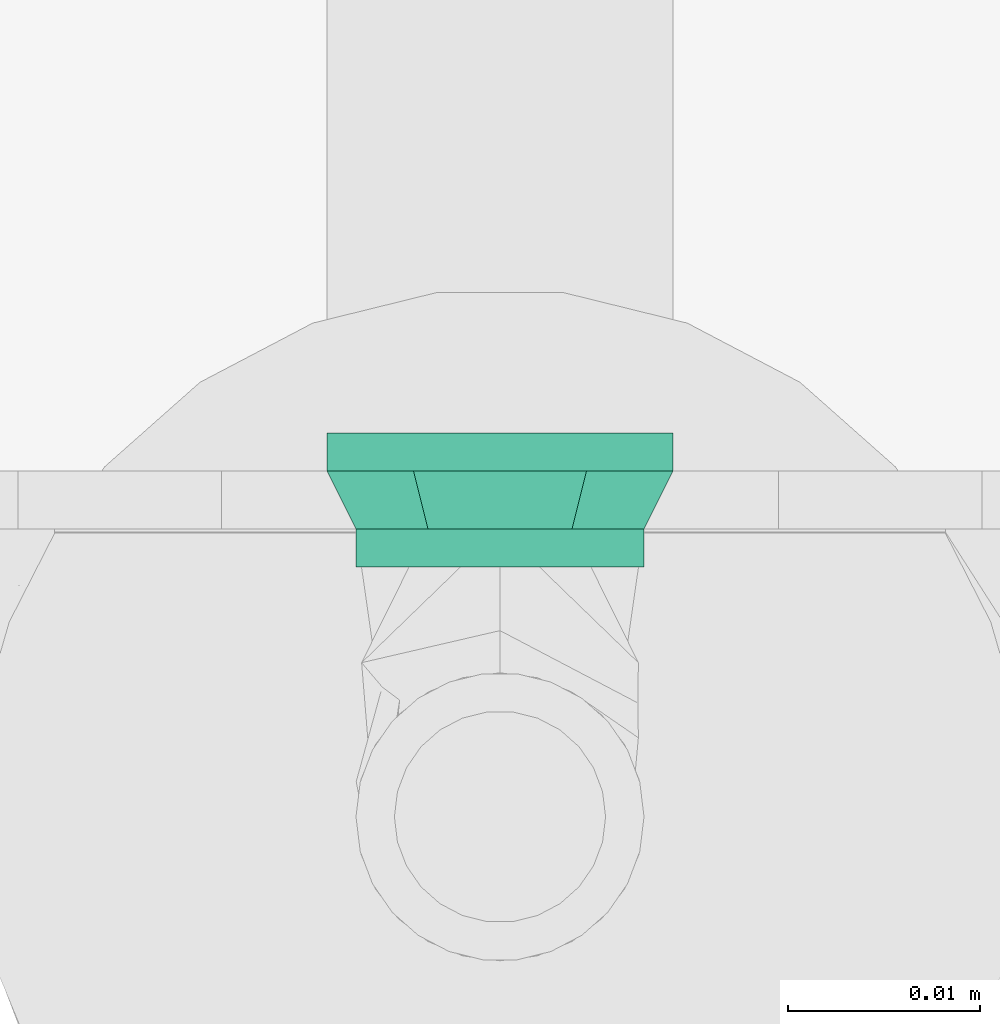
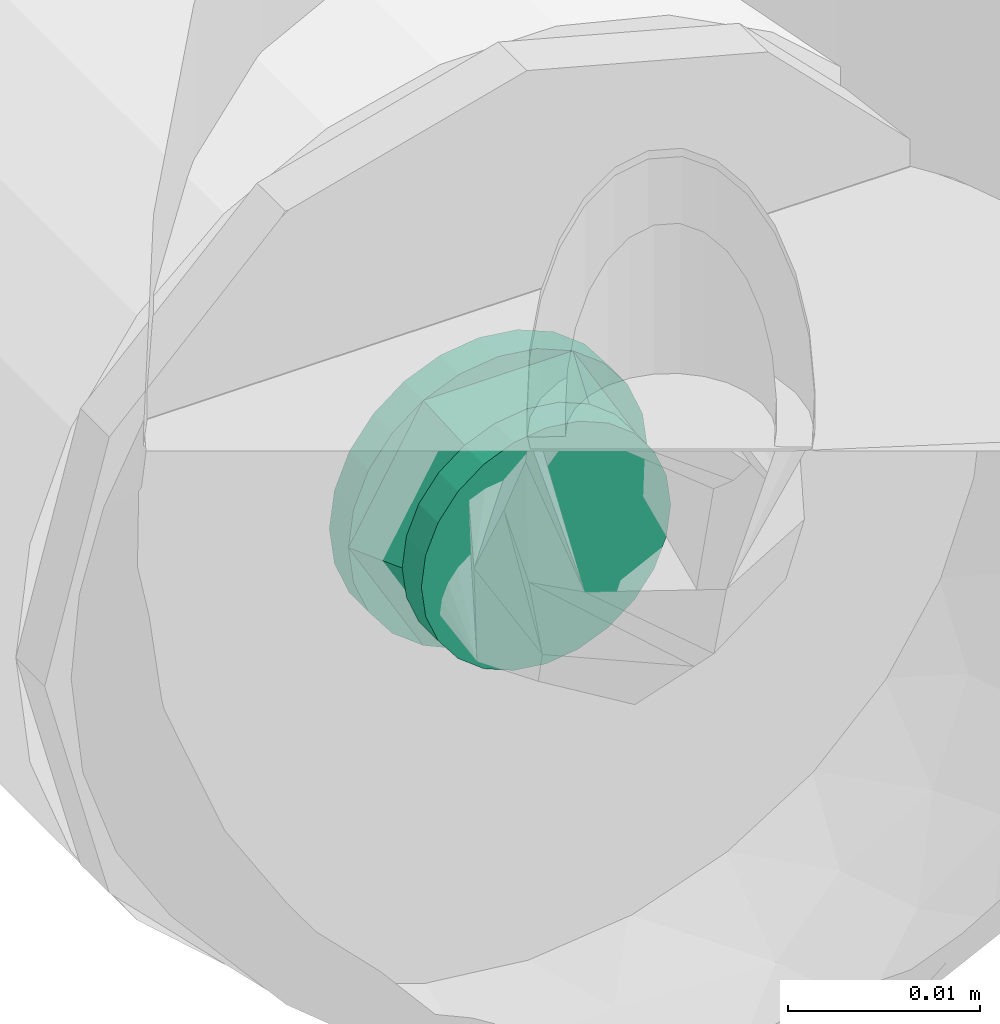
# One storey, part 78 of 78: 1 flow fitting.
"""IFC2X3 building model written with IfcOpenShell, lengths in millimetres."""

import ifcopenshell
import ifcopenshell.guid

model = None  # the IFC model being written
_history = None  # IfcOwnerHistory: only IFC2X3 demands one
_inside = {}  # id of a spatial element -> (the spatial element, [elements in it])
_under = {}  # id of a project, library or spatial element -> (it, [spatial elements below it])
_declared = {}  # id of a project -> (the project, [libraries it declares])
_typed = {}  # id of a type object -> (the type object, [elements of that type])
_made_of = {}  # id of a material, layer set ... -> (it, [elements and type objects made of it])


def new_model(schema):
    """Start an empty IFC model of exactly this schema.

    Asked for "IFC4X3", IfcOpenShell would pick the latest addendum, in which some entities
    have other attributes; the version numbers below select the first issue.
    IFC2X3 requires an IfcOwnerHistory on every rooted entity: one is made here for all.
    """
    global model, _history
    if schema == "IFC4X3":
        model = ifcopenshell.file(schema_version=(4, 3, 0, 0))
    else:
        model = ifcopenshell.file(schema=schema)
    _inside.clear()
    _under.clear()
    _declared.clear()
    _typed.clear()
    _made_of.clear()
    _history = None
    if model.schema == "IFC2X3":
        org = make("IfcOrganization", Name="unknown")
        user = make(
            "IfcPersonAndOrganization",
            ThePerson=make("IfcPerson", FamilyName="unknown"),
            TheOrganization=org,
        )
        app = make(
            "IfcApplication",
            ApplicationDeveloper=org,
            Version="unknown",
            ApplicationFullName="unknown",
            ApplicationIdentifier="unknown",
        )
        _history = make(
            "IfcOwnerHistory",
            OwningUser=user,
            OwningApplication=app,
            ChangeAction="ADDED",
            CreationDate=0,
        )
    return model


def make(cls, **values):
    """One entity of the class cls with the attributes given. An attribute that is None is left unset."""
    return model.create_entity(
        cls, **{name: value for name, value in values.items() if value is not None}
    )


def entity(cls, *values):
    """Any entity or typed value of the class cls, its attributes in the order of the schema. None: left unset."""
    e = model.create_entity(cls)
    for i, value in enumerate(values):
        if value is not None:
            e[i] = value
    return e


def rooted(cls, **values):
    """An entity with a GlobalId (a new one), such as an element, a storey or a relation."""
    return make(cls, GlobalId=ifcopenshell.guid.new(), OwnerHistory=_history, **values)


def si_unit(unit_type, name, prefix=None):
    """IfcSIUnit, for example si_unit("LENGTHUNIT", "METRE", prefix="MILLI")."""
    return make("IfcSIUnit", UnitType=unit_type, Prefix=prefix, Name=name)


def converted_unit(unit_type, name, factor, base, dimensions=None, offset=None):
    """IfcConversionBasedUnit, such as the inch: factor (a typed value) times the base unit."""
    return make(
        "IfcConversionBasedUnit"
        if offset is None
        else "IfcConversionBasedUnitWithOffset",
        ConversionOffset=offset,
        Dimensions=None
        if dimensions is None
        else entity("IfcDimensionalExponents", *dimensions),
        UnitType=unit_type,
        Name=name,
        ConversionFactor=make(
            "IfcMeasureWithUnit", ValueComponent=factor, UnitComponent=base
        ),
    )


def derived_unit(unit_type, elements):
    """IfcDerivedUnit: a product of units, each with its exponent."""
    return make(
        "IfcDerivedUnit",
        Elements=[
            make("IfcDerivedUnitElement", Unit=unit, Exponent=power)
            for unit, power in elements
        ],
        UnitType=unit_type,
    )


def assignment(units):
    """IfcUnitAssignment: the units of a project."""
    return None if units is None else make("IfcUnitAssignment", Units=units)


def point(xyz):
    """IfcCartesianPoint."""
    return None if xyz is None else make("IfcCartesianPoint", Coordinates=xyz)


def direction(xyz):
    """IfcDirection."""
    return None if xyz is None else make("IfcDirection", DirectionRatios=xyz)


def frame(location, z_axis=None, x_axis=None):
    """IfcAxis2Placement3D, a coordinate frame: its origin and axes. An axis left out is left unset."""
    return make(
        "IfcAxis2Placement3D",
        Location=point(location),
        Axis=direction(z_axis),
        RefDirection=direction(x_axis),
    )


def origin_with_axes():
    """The frame at (0, 0, 0) with the z axis (0, 0, 1) and the x axis (1, 0, 0) written out."""
    return frame((0.0, 0.0, 0.0), z_axis=(0.0, 0.0, 1.0), x_axis=(1.0, 0.0, 0.0))


def place(relative_to, where):
    """IfcLocalPlacement: puts the frame where relative to a parent placement (None: the world)."""
    return make(
        "IfcLocalPlacement", PlacementRelTo=relative_to, RelativePlacement=where
    )


def context(
    kind, dimensions, precision=None, world=None, true_north=None, identifier=None
):
    """IfcGeometricRepresentationContext, for example the 3D "Model" context."""
    return make(
        "IfcGeometricRepresentationContext",
        ContextIdentifier=identifier,
        ContextType=kind,
        CoordinateSpaceDimension=dimensions,
        Precision=precision,
        WorldCoordinateSystem=world,
        TrueNorth=true_north,
    )


def subcontext(parent, identifier, kind, view, scale=None):
    """IfcGeometricRepresentationSubContext, for example "Body" below "Model"."""
    return make(
        "IfcGeometricRepresentationSubContext",
        ContextIdentifier=identifier,
        ContextType=kind,
        ParentContext=parent,
        TargetScale=scale,
        TargetView=view,
    )


def project(units=None, contexts=None):
    """IfcProject with its units and contexts."""
    return rooted(
        "IfcProject",
        Name="project",
        RepresentationContexts=contexts,
        UnitsInContext=assignment(units),
    )


def spatial(cls, under=None, at=None, **own):
    """A site, building, storey or space (cls), placed at a placement, below another one or the project."""
    s = rooted(cls, ObjectPlacement=at, **own)
    if under is not None:
        _under.setdefault(under.id(), (under, []))[1].append(s)
    return s


def faces_of(points, faces, orient=None, outer=None):
    """IfcFace entities. A face is a list of loops; a loop is a list of indices into points, from 0.

    orient and outer hold one flag for each loop. By default every Orientation is true, the
    first loop of a face is its IfcFaceOuterBound and the others are IfcFaceBound.
    """
    made = []
    for i, loops in enumerate(faces):
        bounds = []
        for j, loop in enumerate(loops):
            is_outer = j == 0 if outer is None else outer[i][j]
            bounds.append(
                make(
                    "IfcFaceOuterBound" if is_outer else "IfcFaceBound",
                    Bound=make("IfcPolyLoop", Polygon=[points[k] for k in loop]),
                    Orientation=True if orient is None else orient[i][j],
                )
            )
        made.append(make("IfcFace", Bounds=bounds))
    return made


def open_shell(faces, orient=None, outer=None):
    """The faces of one IfcOpenShell. surface_model builds it on its shared points."""
    return ("IfcOpenShell", faces, orient, outer)


def surface_model(cls, points, shells):
    """IfcFaceBasedSurfaceModel or IfcShellBasedSurfaceModel (cls): surfaces that need not close."""
    shared = [point(p) for p in points]
    made = [make(c, CfsFaces=faces_of(shared, fs, o, b)) for c, fs, o, b in shells]
    if cls == "IfcFaceBasedSurfaceModel":
        return make(cls, FbsmFaces=made)
    return make(cls, SbsmBoundary=made)


def shape(context_of_items, identifier, shape_type, items):
    """IfcShapeRepresentation: the items that make up one representation, for example the "Body"."""
    return make(
        "IfcShapeRepresentation",
        ContextOfItems=context_of_items,
        RepresentationIdentifier=identifier,
        RepresentationType=shape_type,
        Items=items,
    )


def source(mapping_origin, context_of_items, identifier, shape_type, items):
    """IfcRepresentationMap: a shape defined once, which mapped items show again and again."""
    return make(
        "IfcRepresentationMap",
        MappingOrigin=mapping_origin,
        MappedRepresentation=shape(context_of_items, identifier, shape_type, items),
    )


def transform(
    local_origin,
    x_axis=None,
    y_axis=None,
    z_axis=None,
    scale=None,
    scale2=None,
    scale3=None,
    uniform=True,
):
    """IfcCartesianTransformationOperator3D, or its non-uniform kind. x_axis, y_axis, z_axis: its Axis1, 2, 3."""
    if uniform:
        return make(
            "IfcCartesianTransformationOperator3D",
            Axis1=direction(x_axis),
            Axis2=direction(y_axis),
            LocalOrigin=point(local_origin),
            Scale=scale,
            Axis3=direction(z_axis),
        )
    return make(
        "IfcCartesianTransformationOperator3DnonUniform",
        Axis1=direction(x_axis),
        Axis2=direction(y_axis),
        LocalOrigin=point(local_origin),
        Scale=scale,
        Axis3=direction(z_axis),
        Scale2=scale2,
        Scale3=scale3,
    )


def mapped(mapping_source, mapping_target):
    """IfcMappedItem: shows the shape of a source again, moved by a transform."""
    return make(
        "IfcMappedItem", MappingSource=mapping_source, MappingTarget=mapping_target
    )


def made_of(thing, what):
    """Note that an element or type object is made of a material, layer set ...; save() writes the relation."""
    if what is not None:
        _made_of.setdefault(what.id(), (what, []))[1].append(thing)
    return thing


def type_object(cls, material=None, **own):
    """A type object (cls), such as IfcWallType, which elements share."""
    return made_of(rooted(cls, **own), material)


def element(
    cls,
    number,
    at=None,
    inside=None,
    cuts=None,
    type_object=None,
    material=None,
    context=None,
    identifier="Body",
    shape_type=None,
    held_by="IfcProductDefinitionShape",
    body=None,
    shapes=None,
    **own,
):
    """One element of the class cls, such as IfcWall. Its Tag is "e" and its number.

    at: its placement. inside: the storey or other place that contains it. cuts: it is an
    opening in that element (IfcRelVoidsElement). A single representation is given by context,
    identifier, shape_type and body (its items); several are given by shapes. held_by: the class
    of the entity that holds the representations. save() writes the other relations.
    """
    e = rooted(cls, Tag="e%d" % number, ObjectPlacement=at, **own)
    if body is not None:
        shapes = [shape(context, identifier, shape_type, body)]
    if shapes is not None:
        e.Representation = make(held_by, Representations=shapes)
    if inside is not None:
        _inside.setdefault(inside.id(), (inside, []))[1].append(e)
    if cuts is not None:
        rooted(
            "IfcRelVoidsElement", RelatingBuildingElement=cuts, RelatedOpeningElement=e
        )
    if type_object is not None:
        _typed.setdefault(type_object.id(), (type_object, []))[1].append(e)
    return made_of(e, material)


def aggregate(whole, parts):
    """IfcRelAggregates: a whole, such as a stair, and the parts it consists of."""
    return rooted("IfcRelAggregates", RelatingObject=whole, RelatedObjects=parts)


def save(model, path):
    """Write the relations noted so far, then the file.

    IfcRelAggregates (storeys below a building ...), IfcRelContainedInSpatialStructure (elements
    in a storey), IfcRelDefinesByType, IfcRelAssociatesMaterial and IfcRelDeclares: one each for
    every whole, place, type object, material and project.
    """
    for whole, parts in _under.values():
        aggregate(whole, parts)
    for where, things in _inside.values():
        rooted(
            "IfcRelContainedInSpatialStructure",
            RelatedElements=things,
            RelatingStructure=where,
        )
    for kind, things in _typed.values():
        rooted("IfcRelDefinesByType", RelatedObjects=things, RelatingType=kind)
    for what, things in _made_of.values():
        rooted("IfcRelAssociatesMaterial", RelatedObjects=things, RelatingMaterial=what)
    for by, libraries in _declared.values():
        rooted("IfcRelDeclares", RelatingContext=by, RelatedDefinitions=libraries)
    model.write(path)


model = new_model("IFC2X3")

# Units and contexts
model_context = context("Model", 3, precision=0.01, world=frame((0.0, 4.29681676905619e-09, 0.0)), true_north=direction((4.01073788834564e-13, 1.0)))
plan_context = context("Plan", 3, precision=0.01, world=frame((0.0, 4.29681676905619e-09, 0.0)), true_north=direction((4.01073788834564e-13, 1.0)))
body_context = subcontext(model_context, "Body", "Model", "MODEL_VIEW")
ifc_project = project(units=[converted_unit("PLANEANGLEUNIT", "DEGREE", entity("IfcPositiveLengthMeasure", 0.0174532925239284), si_unit("PLANEANGLEUNIT", "RADIAN"), dimensions=[0, 0, 0, 0, 0, 0, 0]), si_unit("AREAUNIT", "SQUARE_METRE"), si_unit("LENGTHUNIT", "METRE", prefix="MILLI"), si_unit("MASSUNIT", "GRAM", prefix="KILO"), si_unit("POWERUNIT", "WATT"), si_unit("PRESSUREUNIT", "PASCAL"), si_unit("FORCEUNIT", "NEWTON", prefix="KILO"), si_unit("ELECTRICVOLTAGEUNIT", "VOLT"), si_unit("ELECTRICCURRENTUNIT", "AMPERE"), si_unit("THERMODYNAMICTEMPERATUREUNIT", "DEGREE_CELSIUS"), si_unit("TIMEUNIT", "SECOND"), si_unit("VOLUMEUNIT", "CUBIC_METRE"), derived_unit("LINEARVELOCITYUNIT", [(si_unit("LENGTHUNIT", "METRE"), 1), (si_unit("TIMEUNIT", "SECOND"), -1)]), derived_unit("VOLUMETRICFLOWRATEUNIT", [(si_unit("VOLUMEUNIT", "CUBIC_METRE"), 1), (si_unit("TIMEUNIT", "SECOND"), -1)]), derived_unit("THERMALTRANSMITTANCEUNIT", [(si_unit("POWERUNIT", "WATT"), 1), (si_unit("THERMODYNAMICTEMPERATUREUNIT", "KELVIN"), -1), (si_unit("AREAUNIT", "SQUARE_METRE"), -1)]), derived_unit("SOUNDPRESSUREUNIT", [(si_unit("PRESSUREUNIT", "PASCAL"), 1)])], contexts=[model_context, plan_context])

# Site, building, storey
site_placement = place(None, frame((0.0, -4.29681676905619e-09, 0.0), z_axis=(0.0, 0.0, 1.0), x_axis=(1.0, 0.0, 0.0)))
site = spatial("IfcSite", under=ifc_project, at=site_placement, Name="ENGM", CompositionType="ELEMENT")
building_placement = place(site_placement, frame((0.0, 4.29681676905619e-09, 0.0), z_axis=(0.0, 0.0, 1.0), x_axis=(1.0, 0.0, 0.0)))
building = spatial("IfcBuilding", under=site, at=building_placement, Name="TH", CompositionType="ELEMENT")
storey_placement = place(building_placement, frame((0.0, 0.0, 205200.0), z_axis=(0.0, 0.0, 1.0), x_axis=(1.0, 0.0, 0.0)))
storey = spatial("IfcBuildingStorey", under=building, at=storey_placement, Name="Nivå D + 1,2 m", CompositionType="ELEMENT", Elevation=205200.0)

# Flow fitting
pipe_fitting_type = type_object("IfcPipeFittingType", Name="magi_pipe_cu_reducer_centric_short_001", PredefinedType="TRANSITION")
shared_shape = source(origin_with_axes(), body_context, "Body", "SurfaceModel", [
    surface_model("IfcShellBasedSurfaceModel", [(-2.0, 0.0, 7.5), (-2.0, 6.49519, 3.75), (-2.0, -1.94114, 7.24444), (-2.0, -3.75, 6.49519), (-2.0, -5.3033, 5.3033), (-2.0, -7.24444, 1.94114), (-2.0, -6.49519, 3.75), (-2.0, 3.75, 6.49519), (-2.0, 5.3033, 5.3033), (-2.0, 1.94114, 7.24444), (-2.0, 7.24444, 1.94114), (-2.0, 7.5, 0.0), (-2.0, 7.24444, -1.94114), (-2.0, -7.5, 0.0), (-2.0, 5.3033, -5.3033), (-2.0, -7.24444, -1.94114), (-2.0, -6.49519, -3.75), (-2.0, -1.94114, -7.24444), (-2.0, -3.75, -6.49519), (-2.0, -5.3033, -5.3033), (-2.0, 6.49519, -3.75), (-2.0, 1.94114, -7.24444), (-2.0, 0.0, -7.5), (-2.0, 3.75, -6.49519), (0.0, -3.75, -6.49519), (0.0, -1.94114, -7.24444), (0.0, -7.5, 0.0), (0.0, -5.3033, -5.3033), (0.0, -7.24444, -1.94114), (0.0, -6.49519, -3.75), (0.0, 5.3033, -5.3033), (0.0, 7.24444, 1.94114), (0.0, 1.94114, -7.24444), (0.0, 3.75, -6.49519), (0.0, 0.0, -7.5), (0.0, 6.49519, -3.75), (0.0, 7.24444, -1.94114), (0.0, -7.24444, 1.94114), (0.0, -5.3033, 5.3033), (0.0, -6.49519, 3.75), (0.0, 6.49519, 3.75), (0.0, 0.0, 7.5), (0.0, -1.94114, 7.24444), (0.0, -3.75, 6.49519), (0.0, 7.5, 0.0), (0.0, 3.75, 6.49519), (0.0, 1.94114, 7.24444), (0.0, 5.3033, 5.3033), (5.0, -2.32937, -8.69333), (5.0, 0.0, -9.0), (5.0, 2.32937, -8.69333), (3.0, -9.0, 0.0), (3.0, 4.5, 7.79423), (3.0, -4.5, 7.79423), (5.0, -4.5, -7.79423), (5.0, -8.69333, -2.32937), (5.0, -6.36396, -6.36396), (5.0, -7.79423, -4.5), (5.0, 8.69333, -2.32937), (5.0, 6.36396, 6.36396), (5.0, 4.5, -7.79423), (5.0, 6.36396, -6.36396), (5.0, 7.79423, -4.5), (5.0, -8.69333, 2.32937), (5.0, -9.0, 0.0), (5.0, -7.79423, 4.5), (5.0, -6.36396, 6.36396), (5.0, 0.0, 9.0), (5.0, -2.32937, 8.69333), (5.0, -4.5, 7.79423), (5.0, 7.79423, 4.5), (5.0, 8.69333, 2.32937), (5.0, 9.0, 0.0), (5.0, 4.5, 7.79423), (5.0, 2.32937, 8.69333), (3.0, -2.32937, 8.69333), (3.0, 0.0, 9.0), (3.0, -6.36396, 6.36396), (3.0, 2.32937, 8.69333), (3.0, -7.79423, 4.5), (3.0, 8.69333, -2.32937), (3.0, 6.36396, 6.36396), (3.0, 9.0, 0.0), (3.0, 7.79423, 4.5), (3.0, 8.69333, 2.32937), (3.0, -8.69333, 2.32937), (3.0, 6.36396, -6.36396), (3.0, -8.69333, -2.32937), (3.0, -7.79423, -4.5), (3.0, -6.36396, -6.36396), (3.0, -2.32937, -8.69333), (3.0, -4.5, -7.79423), (3.0, 0.0, -9.0), (3.0, 7.79423, -4.5), (3.0, 4.5, -7.79423), (3.0, 2.32937, -8.69333)], [open_shell([[[0, 1, 2]], [[3, 2, 4]], [[5, 6, 4]], [[1, 4, 2]], [[4, 1, 5]], [[7, 8, 9]], [[1, 9, 8]], [[9, 1, 0]], [[1, 10, 5]], [[11, 12, 10]], [[13, 5, 10]], [[13, 14, 15]], [[16, 15, 17]], [[17, 18, 19]], [[16, 17, 19]], [[17, 15, 14]], [[20, 14, 12]], [[12, 14, 10]], [[21, 22, 23]], [[14, 23, 22]], [[14, 22, 17]], [[13, 10, 14]], [[24, 25, 26]], [[27, 24, 28]], [[24, 26, 28]], [[29, 27, 28]], [[25, 30, 31]], [[32, 33, 34]], [[30, 34, 33]], [[35, 36, 30]], [[25, 34, 30]], [[36, 31, 30]], [[37, 26, 25]], [[38, 39, 37]], [[25, 40, 38]], [[38, 41, 42]], [[43, 38, 42]], [[41, 38, 40]], [[25, 31, 40]], [[31, 36, 44]], [[45, 46, 47]], [[40, 47, 46]], [[41, 40, 46]], [[38, 37, 25]], [[11, 36, 12]], [[12, 35, 20]], [[23, 14, 33]], [[30, 14, 20]], [[21, 23, 32]], [[36, 35, 12]], [[11, 44, 36]], [[23, 33, 32]], [[33, 14, 30]], [[20, 35, 30]], [[21, 32, 34]], [[34, 22, 21]], [[22, 25, 17]], [[17, 24, 18]], [[16, 19, 29]], [[27, 19, 18]], [[15, 16, 28]], [[24, 27, 18]], [[17, 25, 24]], [[15, 28, 26]], [[28, 16, 29]], [[19, 27, 29]], [[15, 26, 13]], [[34, 25, 22]], [[13, 37, 5]], [[5, 39, 6]], [[3, 4, 43]], [[38, 4, 6]], [[2, 3, 42]], [[37, 39, 5]], [[13, 26, 37]], [[3, 43, 42]], [[43, 4, 38]], [[6, 39, 38]], [[2, 42, 41]], [[41, 0, 2]], [[0, 46, 9]], [[9, 45, 7]], [[1, 8, 40]], [[47, 8, 7]], [[10, 1, 31]], [[45, 47, 7]], [[9, 46, 45]], [[10, 31, 44]], [[31, 1, 40]], [[8, 47, 40]], [[10, 44, 11]], [[41, 46, 0]], [[43, 45, 44]], [[26, 43, 24]], [[33, 24, 44]], [[43, 44, 24]], [[48, 49, 50]], [[51, 52, 53]], [[54, 48, 55]], [[56, 54, 55]], [[50, 55, 48]], [[57, 56, 55]], [[55, 58, 59]], [[60, 61, 50]], [[62, 58, 61]], [[55, 50, 61]], [[55, 61, 58]], [[63, 64, 55]], [[55, 59, 65]], [[66, 65, 67]], [[67, 68, 69]], [[66, 67, 69]], [[67, 65, 59]], [[70, 59, 71]], [[71, 58, 72]], [[73, 74, 59]], [[59, 58, 71]], [[67, 59, 74]], [[63, 55, 65]], [[53, 75, 76]], [[77, 53, 76]], [[78, 79, 76]], [[77, 76, 79]], [[79, 78, 80]], [[52, 81, 78]], [[82, 78, 81]], [[83, 84, 81]], [[82, 81, 84]], [[80, 78, 82]], [[85, 79, 51]], [[51, 86, 87]], [[88, 87, 89]], [[87, 90, 91]], [[89, 87, 91]], [[90, 87, 92]], [[93, 86, 80]], [[86, 51, 80]], [[94, 95, 86]], [[86, 95, 87]], [[95, 92, 87]], [[79, 80, 51]], [[82, 58, 80]], [[80, 62, 93]], [[94, 86, 60]], [[61, 86, 93]], [[95, 94, 50]], [[58, 62, 80]], [[82, 72, 58]], [[94, 60, 50]], [[60, 86, 61]], [[93, 62, 61]], [[95, 50, 49]], [[49, 92, 95]], [[92, 48, 90]], [[90, 54, 91]], [[88, 89, 57]], [[56, 89, 91]], [[87, 88, 55]], [[54, 56, 91]], [[90, 48, 54]], [[87, 55, 64]], [[55, 88, 57]], [[89, 56, 57]], [[87, 64, 51]], [[49, 48, 92]], [[51, 63, 85]], [[85, 65, 79]], [[53, 77, 69]], [[66, 77, 79]], [[75, 53, 68]], [[63, 65, 85]], [[51, 64, 63]], [[53, 69, 68]], [[69, 77, 66]], [[79, 65, 66]], [[75, 68, 67]], [[67, 76, 75]], [[76, 74, 78]], [[78, 73, 52]], [[83, 81, 70]], [[59, 81, 52]], [[84, 83, 71]], [[73, 59, 52]], [[78, 74, 73]], [[84, 71, 72]], [[71, 83, 70]], [[81, 59, 70]], [[84, 72, 82]], [[67, 74, 76]], [[82, 52, 94]], [[91, 94, 51]], [[52, 51, 94]], [[94, 33, 44]], [[44, 82, 94]], [[94, 91, 33]], [[51, 26, 24]], [[24, 91, 51]], [[33, 91, 24]], [[53, 43, 26]], [[26, 51, 53]], [[53, 52, 43]], [[82, 44, 45]], [[45, 52, 82]], [[43, 52, 45]]])]),
])
flow_fitting_placement = place(storey_placement, frame((904834.075, 477894.03687, 4410.0), z_axis=(0.0, 0.0, 1.0), x_axis=(0.0, 1.0, 0.0)))
element("IfcFlowFitting", 1, at=flow_fitting_placement, inside=storey, type_object=pipe_fitting_type, Name="magi_pipe_cu_reducer_centric_short_001", context=body_context, shape_type="MappedRepresentation", body=[
    mapped(shared_shape, transform((0.0, 0.0, 0.0), scale=1.0)),
])

save(model, "model.ifc")
